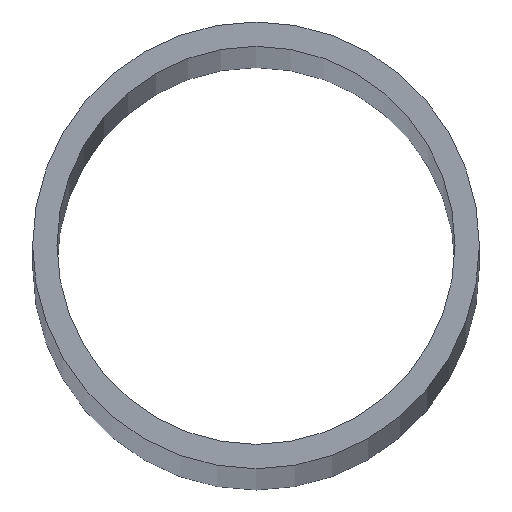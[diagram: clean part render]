
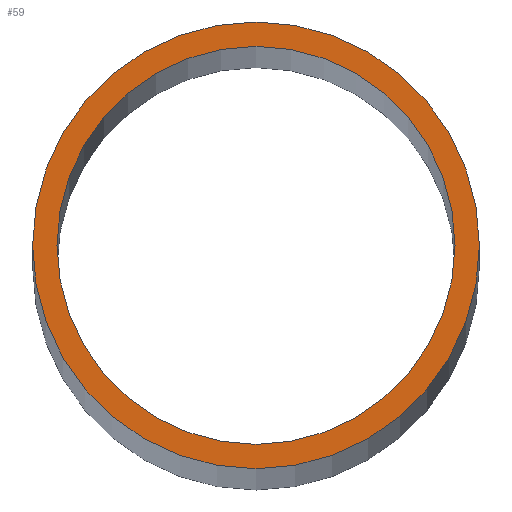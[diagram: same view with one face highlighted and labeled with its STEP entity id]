
A CAD part, top view. The second image highlights one B-rep face of the part: STEP entity #59.
In plain terms, the highlighted planar face has unit normal (0, 0, 1).
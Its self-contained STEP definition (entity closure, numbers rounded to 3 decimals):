
#12=PLANE($,#70);
#16=FACE_BOUND($,#26,.T.);
#17=FACE_BOUND($,#27,.T.);
#26=EDGE_LOOP($,(#46));
#27=EDGE_LOOP($,(#47));
#30=CIRCLE($,#65,49.);
#32=CIRCLE($,#68,55.);
#34=VERTEX_POINT($,#92);
#36=VERTEX_POINT($,#97);
#38=EDGE_CURVE($,#34,#34,#30,.T.);
#40=EDGE_CURVE($,#36,#36,#32,.T.);
#46=ORIENTED_EDGE($,*,*,#38,.T.);
#47=ORIENTED_EDGE($,*,*,#40,.F.);
#59=ADVANCED_FACE($,(#16,#17),#12,.F.);
#65=AXIS2_PLACEMENT_3D($,#93,#76,#77);
#68=AXIS2_PLACEMENT_3D($,#98,#82,#83);
#70=AXIS2_PLACEMENT_3D($,#101,#86,#87);
#76=DIRECTION('center_axis',(0.,0.,-1.));
#77=DIRECTION('ref_axis',(-1.,0.,0.));
#82=DIRECTION('center_axis',(0.,0.,-1.));
#83=DIRECTION('ref_axis',(-1.,0.,0.));
#86=DIRECTION('center_axis',(0.,0.,-1.));
#87=DIRECTION('ref_axis',(-1.,0.,0.));
#92=CARTESIAN_POINT('',(49.,0.,3000.));
#93=CARTESIAN_POINT('Origin',(0.,0.,3000.));
#97=CARTESIAN_POINT('',(55.,0.,3000.));
#98=CARTESIAN_POINT('Origin',(0.,0.,3000.));
#101=CARTESIAN_POINT('Origin',(0.,0.,3000.));
